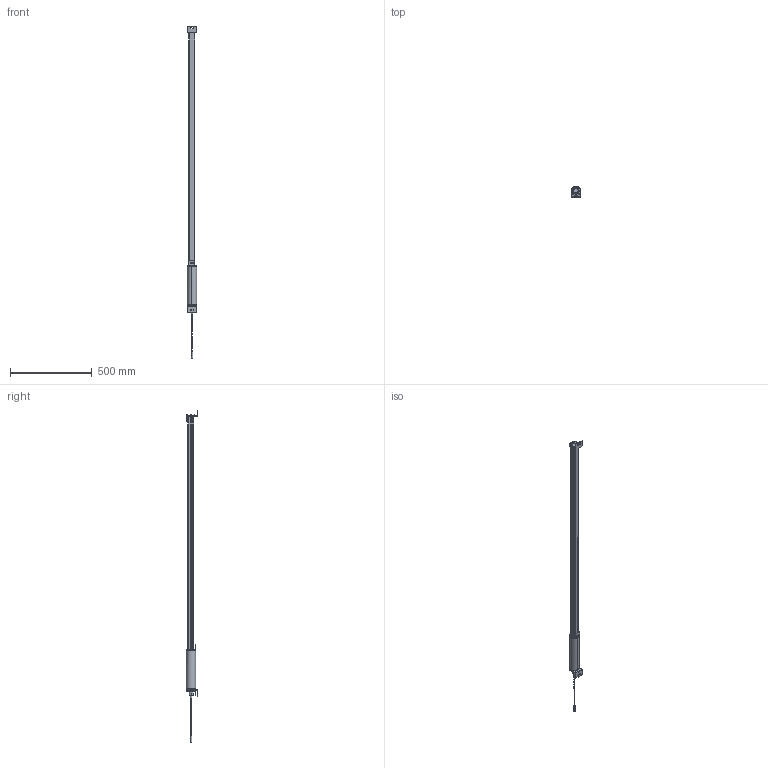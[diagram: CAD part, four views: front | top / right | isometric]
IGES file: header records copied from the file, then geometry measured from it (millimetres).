
Global section: file name: C:\ACADFILES\MG_PYLONS\CUSTOMER_FILES\MG-64-PYLON_3D_SMB.igs; native system: AutoCAD-18.2s (LMS Tech) (Microsoft Windows NT Version 6.1 (x86)); preprocessor: Autodesk IGES Translator Mechanical Desktop 2011 (Feb 18 2011) from Autodesk, Inc.; date: 20140327.142522; units: inch
Bounding box: 57.29 x 69.85 x 2032.37 mm (x, y, z)
Surface area: 783505.2 mm2 (no closed solid volume)
Topology: 0 solids, 0 shells, 1800 faces, 9329 edges, 9504 vertices
Faces by surface type: bspline 1800
